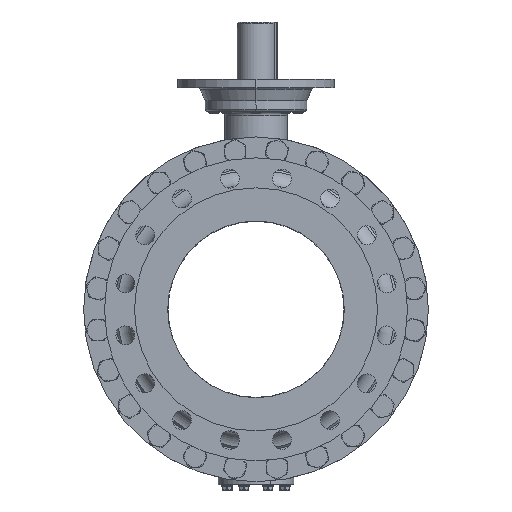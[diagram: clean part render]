
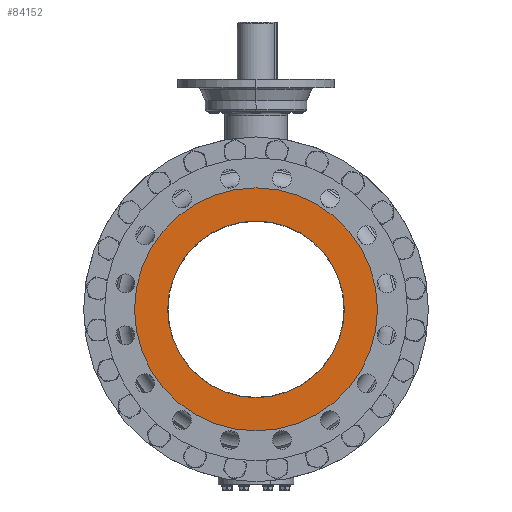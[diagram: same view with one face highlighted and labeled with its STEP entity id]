
A CAD part, left-side view. The second image highlights one B-rep face of the part: STEP entity #84152.
In plain terms, the highlighted planar face has unit normal (-1, 0, 0).
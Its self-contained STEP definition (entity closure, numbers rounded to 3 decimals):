
#12994=CARTESIAN_POINT('',(-381.,0.,0.));
#12995=DIRECTION('',(1.,0.,0.));
#12996=DIRECTION('',(0.,0.,1.));
#12997=AXIS2_PLACEMENT_3D('',#12994,#12995,#12996);
#12999=CARTESIAN_POINT('',(-381.,0.,0.));
#13000=DIRECTION('',(1.,0.,0.));
#13001=DIRECTION('',(0.,0.,-1.));
#13002=AXIS2_PLACEMENT_3D('',#12999,#13000,#13001);
#13004=CARTESIAN_POINT('',(-381.,0.,0.));
#13005=DIRECTION('',(1.,0.,0.));
#13006=DIRECTION('',(0.,0.,1.));
#13007=AXIS2_PLACEMENT_3D('',#13004,#13005,#13006);
#13009=CARTESIAN_POINT('',(-381.,0.,0.));
#13010=DIRECTION('',(-1.,0.,0.));
#13011=DIRECTION('',(0.,0.,1.));
#13012=AXIS2_PLACEMENT_3D('',#13009,#13010,#13011);
#59312=CARTESIAN_POINT('',(-381.,0.,169.));
#59314=VERTEX_POINT('',#59312);
#59316=CARTESIAN_POINT('',(-381.,0.,-169.));
#59318=VERTEX_POINT('',#59316);
#59347=CARTESIAN_POINT('',(-381.,0.,232.5));
#59348=CARTESIAN_POINT('',(-381.,0.,-232.5));
#59349=VERTEX_POINT('',#59347);
#59350=VERTEX_POINT('',#59348);
#84137=CARTESIAN_POINT('',(-381.,0.,0.));
#84138=DIRECTION('',(-1.,0.,0.));
#84139=DIRECTION('',(0.,0.,-1.));
#84140=AXIS2_PLACEMENT_3D('',#84137,#84138,#84139);
#84141=PLANE('',#84140);
#84143=ORIENTED_EDGE('',*,*,#84142,.T.);
#84145=ORIENTED_EDGE('',*,*,#84144,.T.);
#84146=EDGE_LOOP('',(#84143,#84145));
#84147=FACE_OUTER_BOUND('',#84146,.F.);
#84148=ORIENTED_EDGE('',*,*,#84130,.F.);
#84149=ORIENTED_EDGE('',*,*,#84119,.T.);
#84150=EDGE_LOOP('',(#84148,#84149));
#84151=FACE_BOUND('',#84150,.F.);
#84152=ADVANCED_FACE('',(#84147,#84151),#84141,.T.);
#12998=CIRCLE('',#12997,232.5);
#13003=CIRCLE('',#13002,232.5);
#13008=CIRCLE('',#13007,169.);
#13013=CIRCLE('',#13012,169.);
#84119=EDGE_CURVE('',#59314,#59318,#13013,.T.);
#84130=EDGE_CURVE('',#59314,#59318,#13008,.T.);
#84142=EDGE_CURVE('',#59349,#59350,#12998,.T.);
#84144=EDGE_CURVE('',#59350,#59349,#13003,.T.);
